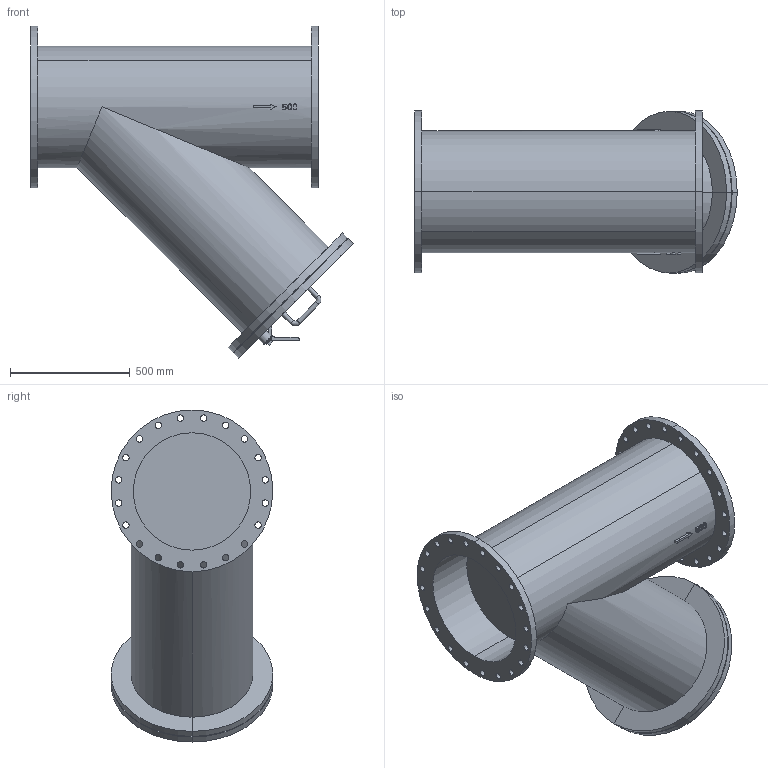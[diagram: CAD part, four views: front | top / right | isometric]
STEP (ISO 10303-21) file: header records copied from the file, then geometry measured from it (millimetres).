
FILE_DESCRIPTION( (''), '2;1');
FILE_NAME ('PC1056.8336.SY-13(500A)_25717.stp','2024-08-19T16:12:11',(''),(''),'spGate 19.8.4 (****-****-****-****)','','');
FILE_SCHEMA (('AUTOMOTIVE_DESIGN'));
Length unit declared in the file: millimetre
Products named in the file (15): Assembly; SY13(500A)本体P; CP_山形鋼(等辺)_L-130x130x15x100_9; 500Aカバー; PC1056-prt3; PC1056-prt4; PC1056-prt5; PC1056-prt6; PC1056-prt7; PC1056-prt8; 500A取っ手_M7; 500A取っ手_M8; 500A取っ手_M9; 500A取っ手_M10; plug-25A-JISB2301
Assembly tree (24 placements, depth 2):
  Assembly
    SY13(500A)本体P
    CP_山形鋼(等辺)_L-130x130x15x100_9
    500Aカバー
    PC1056-prt3  x2
    PC1056-prt4  x2
    PC1056-prt5  x2
    PC1056-prt6  x2
    PC1056-prt7  x2
    PC1056-prt8  x2
    500A取っ手_M7  x2
    500A取っ手_M8  x2
    500A取っ手_M9  x2
    500A取っ手_M10  x2
    plug-25A-JISB2301
Bounding box: 1345.79 x 675 x 1385.79 mm (x, y, z)
Volume: 356589416.6 mm3; surface area: 6116983.2 mm2
Topology: 12 solids, 12 shells, 272 faces, 674 edges, 457 vertices
Faces by surface type: cylinder 153, plane 78, bspline 41
Entity records: 15434 total; most frequent: CARTESIAN_POINT 3902, DIRECTION 1277, ORIENTED_EDGE 1268, COLOUR_RGB 902, PRESENTATION_STYLE_ASSIGNMENT 902, STYLED_ITEM 902, DRAUGHTING_PRE_DEFINED_CURVE_FONT 640, CURVE_STYLE 640
